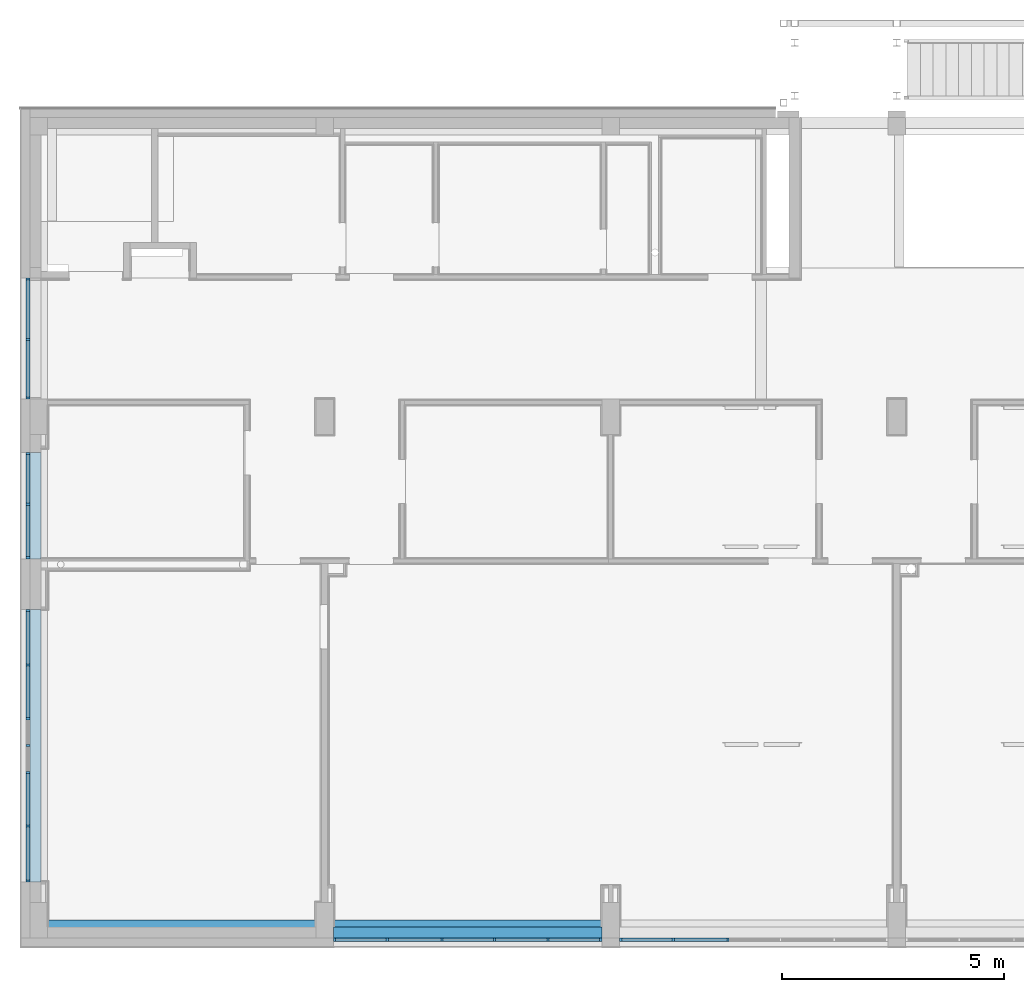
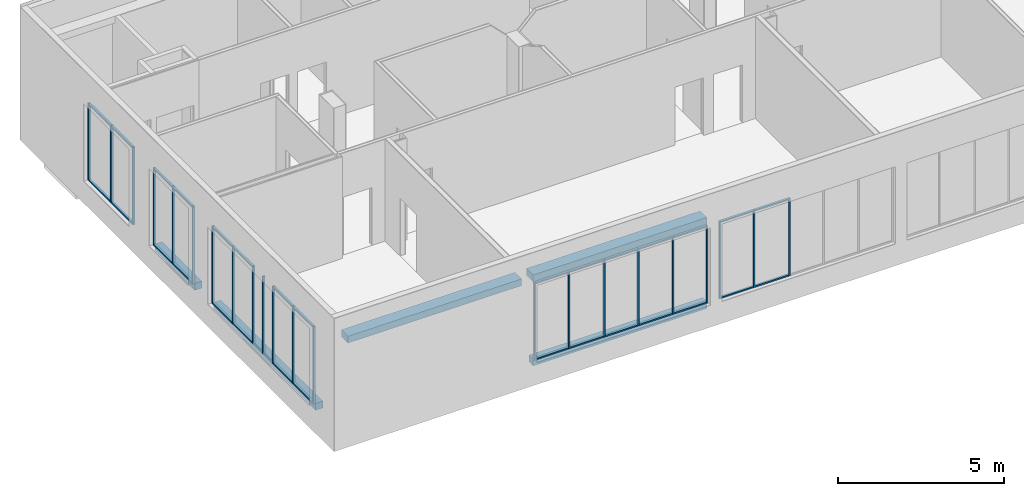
# One storey, part 6 of 29: 52 members, 4 beams, 5 elements without a shape of their own.
"""IFC2X3 building model written with IfcOpenShell, lengths in centimetres."""

from ifc_helpers import new_model, entity, si_unit, converted_unit, derived_unit, direction, frame, frame_2d, origin, origin_2d_with_axis, place, context, subcontext, project, spatial, rectangle, extrude, source, transform, mapped, material, type_object, type_shapes, element, aggregate, save


model = new_model("IFC2X3")

# Units and contexts
model_context = context("Model", 3, precision=0.001, world=origin(), true_north=direction((6.12303176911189e-17, 1.0)))
body_context = subcontext(model_context, "Body", "Model", "MODEL_VIEW")
ifc_project = project(units=[si_unit("LENGTHUNIT", "METRE", prefix="CENTI"), si_unit("AREAUNIT", "SQUARE_METRE"), si_unit("VOLUMEUNIT", "CUBIC_METRE"), converted_unit("PLANEANGLEUNIT", "DEGREE", entity("IfcRatioMeasure", 0.0174532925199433), si_unit("PLANEANGLEUNIT", "RADIAN"), dimensions=[0, 0, 0, 0, 0, 0, 0]), si_unit("MASSUNIT", "GRAM", prefix="KILO"), derived_unit("MASSDENSITYUNIT", [(si_unit("MASSUNIT", "GRAM", prefix="KILO"), 1), (si_unit("LENGTHUNIT", "METRE"), -3)]), derived_unit("MOMENTOFINERTIAUNIT", [(si_unit("LENGTHUNIT", "METRE"), 4)]), si_unit("TIMEUNIT", "SECOND"), si_unit("FREQUENCYUNIT", "HERTZ"), si_unit("THERMODYNAMICTEMPERATUREUNIT", "DEGREE_CELSIUS"), derived_unit("THERMALTRANSMITTANCEUNIT", [(si_unit("MASSUNIT", "GRAM", prefix="KILO"), 1), (si_unit("THERMODYNAMICTEMPERATUREUNIT", "KELVIN"), -1), (si_unit("TIMEUNIT", "SECOND"), -3)]), derived_unit("VOLUMETRICFLOWRATEUNIT", [(si_unit("LENGTHUNIT", "METRE"), 3), (si_unit("TIMEUNIT", "SECOND"), -1)]), si_unit("ELECTRICCURRENTUNIT", "AMPERE"), si_unit("ELECTRICVOLTAGEUNIT", "VOLT"), si_unit("POWERUNIT", "WATT"), si_unit("FORCEUNIT", "NEWTON", prefix="KILO"), si_unit("ILLUMINANCEUNIT", "LUX"), si_unit("LUMINOUSFLUXUNIT", "LUMEN"), si_unit("LUMINOUSINTENSITYUNIT", "CANDELA"), derived_unit("USERDEFINED", [(si_unit("MASSUNIT", "GRAM", prefix="KILO"), -1), (si_unit("LENGTHUNIT", "METRE"), -2), (si_unit("TIMEUNIT", "SECOND"), 3), (si_unit("LUMINOUSFLUXUNIT", "LUMEN"), 1)]), derived_unit("LINEARVELOCITYUNIT", [(si_unit("LENGTHUNIT", "METRE"), 1), (si_unit("TIMEUNIT", "SECOND"), -1)]), si_unit("PRESSUREUNIT", "PASCAL"), derived_unit("USERDEFINED", [(si_unit("LENGTHUNIT", "METRE"), -2), (si_unit("MASSUNIT", "GRAM", prefix="KILO"), 1), (si_unit("TIMEUNIT", "SECOND"), -2)]), derived_unit("LINEARFORCEUNIT", [(si_unit("MASSUNIT", "GRAM", prefix="KILO"), 1), (si_unit("LENGTHUNIT", "METRE"), 1), (si_unit("TIMEUNIT", "SECOND"), -2), (si_unit("LENGTHUNIT", "METRE"), -1)]), derived_unit("PLANARFORCEUNIT", [(si_unit("MASSUNIT", "GRAM", prefix="KILO"), 1), (si_unit("LENGTHUNIT", "METRE"), 1), (si_unit("TIMEUNIT", "SECOND"), -2), (si_unit("LENGTHUNIT", "METRE"), -2)])], contexts=[model_context])

# Site, building, storey
site_placement = place(None, origin())
site = spatial("IfcSite", under=ifc_project, at=site_placement, Name="Default", CompositionType="ELEMENT")
building_placement = place(site_placement, origin())
building = spatial("IfcBuilding", under=site, at=building_placement, CompositionType="ELEMENT")
storey_placement = place(building_placement, frame((0.0, 0.0, 545.0)))
storey = spatial("IfcBuildingStorey", under=building, at=storey_placement, Name="Poziom 1K +5,45", CompositionType="ELEMENT", Elevation=544.999999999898)

# Beams
ifc_material_1 = material(Name="_Beton C30/37")
beam_type_1 = type_object("IfcBeamType", Name="Beton-belka prostokątna:BELKA 40x30", PredefinedType="NOTDEFINED")
beam_1_placement = place(storey_placement, frame((-2894.26511743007, 275.127657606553, 380.0)))
element("IfcBeam", 1, at=beam_1_placement, inside=storey, type_object=beam_type_1, material=ifc_material_1, Name="Beton-belka prostokątna:BELKA 40x30", ObjectType="Beton-belka prostokątna:BELKA 40x30", context=body_context, shape_type="SweptSolid", body=[
    extrude(rectangle(XDim=25.0000000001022, YDim=40.0000000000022, at=frame_2d((0.0, 5.13367126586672e-13), x_axis=(1.0, 0.0))), frame((0.0, 0.0, -2.49999999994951), z_axis=(1.0, 0.0, 0.0), x_axis=(0.0, 0.0, -1.0)), (0.0, 0.0, 1.0), 605.000010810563),
])
beam_2_placement = place(storey_placement, frame((-2249.26510661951, 275.12765760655, 380.0)))
element("IfcBeam", 2, at=beam_2_placement, inside=storey, type_object=beam_type_1, material=ifc_material_1, Name="Beton-belka prostokątna:BELKA 40x30", ObjectType="Beton-belka prostokątna:BELKA 40x30", context=body_context, shape_type="SweptSolid", body=[
    extrude(rectangle(XDim=25.0000000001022, YDim=40.0000000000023, at=frame_2d((0.0, 4.60076421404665e-13), x_axis=(1.0, 0.0))), frame((0.0, 0.0, -2.49999999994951), z_axis=(1.0, 0.0, 0.0), x_axis=(0.0, 0.0, -1.0)), (0.0, 0.0, 1.0), 604.999999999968),
])
beam_type_2 = type_object("IfcBeamType", Name="Beton-belka prostokątna:wieniec 25x25", PredefinedType="BEAM", material=ifc_material_1)
beam_3_placement = place(storey_placement, frame((-2249.26510661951, 267.627657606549, 0.0)))
element("IfcBeam", 3, at=beam_3_placement, inside=storey, type_object=beam_type_2, material=ifc_material_1, Name="Beton-belka prostokątna:wieniec 25x25", ObjectType="Beton-belka prostokątna:wieniec 25x25", context=body_context, shape_type="SweptSolid", body=[
    extrude(rectangle(XDim=24.9999999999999, YDim=25.0000000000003, at=frame_2d((0.0, 8.08242361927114e-14), x_axis=(1.0, 0.0))), frame((0.0, 0.0, 67.4999999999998), z_axis=(1.0, 0.0, 0.0), x_axis=(0.0, 0.0, -1.0)), (0.0, 0.0, 1.0), 604.999999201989),
])
beam_type_3 = type_object("IfcBeamType", Name="Beton-belka prostokątna:wieniec 25x25", PredefinedType="BEAM", material=ifc_material_1)
shared_shape_1 = source(origin(), body_context, "Body", "SweptSolid", [
    extrude(rectangle(XDim=24.9999999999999, YDim=25.0000000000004, at=frame_2d((0.0, 0.0), x_axis=(0.0, 1.0))), frame((-2921.76510657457, 1350.12745208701, 612.499999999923), z_axis=(0.0, -1.0, 0.0), x_axis=(-1.0, 0.0, 0.0)), (0.0, 0.0, 1.0), 240.500001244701),
    extrude(rectangle(XDim=24.9999999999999, YDim=25.0000000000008, at=frame_2d((0.0, 0.0), x_axis=(0.0, 1.0))), frame((-2921.76510657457, 996.127657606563, 612.499999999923), z_axis=(0.0, -1.0, 0.0), x_axis=(-1.0, 0.0, 0.0)), (0.0, 0.0, 1.0), 615.000206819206),
])
type_shapes(beam_type_3, [shared_shape_1])
beam_4_placement = place(storey_placement, frame((0.0, 0.0, -545.0)))
element("IfcBeam", 4, at=beam_4_placement, inside=storey, type_object=beam_type_3, Name="Beton-belka prostokątna:wieniec 25x25", ObjectType="Beton-belka prostokątna:wieniec 25x25", context=body_context, shape_type="MappedRepresentation", body=[
    mapped(shared_shape_1, transform((0.0, 0.0, 0.0), scale=1.0)),
])

# Curtain wall, members
curtain_wall_type_1 = type_object("IfcCurtainWallType", PredefinedType="NOTDEFINED")
curtain_wall_1_placement = place(storey_placement, frame((0.0, 0.0, -545.0)))
curtain_wall_1 = element("IfcCurtainWall", 5, at=curtain_wall_1_placement, inside=storey, type_object=curtain_wall_type_1)
ifc_material_2 = material(Name="Aluminium")
member_type_1 = type_object("IfcMemberType", Name="Prostokątny szpros:50 x 80mm", PredefinedType="MULLION", material=ifc_material_2)
shared_shape_2 = source(origin(), body_context, "Body", "SweptSolid", [
    extrude(rectangle(XDim=8.0, YDim=5.0, at=origin_2d_with_axis()), frame((-2.5, 0.0, -118.5002067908), z_axis=(0.0, 0.0, 1.0), x_axis=(0.0, -1.0, 0.0)), (0.0, 0.0, 1.0), 118.5002067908),
])
type_shapes(member_type_1, [shared_shape_2])
member_1_placement = place(curtain_wall_1_placement, frame((-2938.26510657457, 386.127450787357, 910.0), z_axis=(0.0, -1.0, 0.0), x_axis=(0.0, 0.0, 1.0)))
member_1 = element("IfcMember", 6, at=member_1_placement, type_object=member_type_1, Name="Prostokątny szpros:50 x 80mm", ObjectType="Prostokątny szpros:50 x 80mm", context=body_context, shape_type="MappedRepresentation", body=[
    mapped(shared_shape_2, transform((0.0, 0.0, 0.0), scale=1.0)),
])
member_2_placement = place(curtain_wall_1_placement, frame((-2938.26510657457, 872.627450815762, 910.0), z_axis=(0.0, -1.0, 0.0), x_axis=(0.0, 0.0, 1.0)))
member_2 = element("IfcMember", 7, at=member_2_placement, type_object=member_type_1, Name="Prostokątny szpros:50 x 80mm", ObjectType="Prostokątny szpros:50 x 80mm", context=body_context, shape_type="MappedRepresentation", body=[
    mapped(shared_shape_2, transform((0.0, 0.0, 0.0), scale=1.0)),
])
member_type_2 = type_object("IfcMemberType", Name="Prostokątny szpros:50 x 80mm", PredefinedType="MULLION", material=ifc_material_2)
shared_shape_3 = source(origin(), body_context, "Body", "SweptSolid", [
    extrude(rectangle(XDim=8.0, YDim=5.0, at=origin_2d_with_axis()), frame((-2.5, 0.0, -118.5002067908), z_axis=(0.0, 0.0, 1.0), x_axis=(0.0, -1.0, 0.0)), (0.0, 0.0, 1.0), 118.5002067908),
])
type_shapes(member_type_2, [shared_shape_3])
member_3_placement = place(curtain_wall_1_placement, frame((-2938.26510657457, 991.127657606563, 625.0), z_axis=(0.0, 1.0, 0.0), x_axis=(0.0, 0.0, -1.0)))
member_3 = element("IfcMember", 8, at=member_3_placement, type_object=member_type_2, Name="Prostokątny szpros:50 x 80mm", ObjectType="Prostokątny szpros:50 x 80mm", context=body_context, shape_type="MappedRepresentation", body=[
    mapped(shared_shape_3, transform((0.0, 0.0, 0.0), scale=1.0)),
])
member_4_placement = place(curtain_wall_1_placement, frame((-2938.26510657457, 504.627450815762, 625.0), z_axis=(0.0, 1.0, 0.0), x_axis=(0.0, 0.0, -1.0)))
member_4 = element("IfcMember", 9, at=member_4_placement, type_object=member_type_2, Name="Prostokątny szpros:50 x 80mm", ObjectType="Prostokątny szpros:50 x 80mm", context=body_context, shape_type="MappedRepresentation", body=[
    mapped(shared_shape_3, transform((0.0, 0.0, 0.0), scale=1.0)),
])
member_type_3 = type_object("IfcMemberType", Name="Prostokątny szpros:50 x 80mm", PredefinedType="MULLION", material=ifc_material_2)
shared_shape_4 = source(origin(), body_context, "Body", "SweptSolid", [
    extrude(rectangle(XDim=8.0, YDim=5.0, at=origin_2d_with_axis()), frame((-2.5, 0.0, -285.0), z_axis=(0.0, 0.0, 1.0), x_axis=(0.0, -1.0, 0.0)), (0.0, 0.0, 1.0), 284.999999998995),
])
type_shapes(member_type_3, [shared_shape_4])
member_5_placement = place(curtain_wall_1_placement, frame((-2938.26510657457, 381.127450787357, 625.0), z_axis=(0.0, 0.0, -1.0), x_axis=(0.0, -1.0, 0.0)))
member_5 = element("IfcMember", 10, at=member_5_placement, type_object=member_type_3, Name="Prostokątny szpros:50 x 80mm", ObjectType="Prostokątny szpros:50 x 80mm", context=body_context, shape_type="MappedRepresentation", body=[
    mapped(shared_shape_4, transform((0.0, 0.0, 0.0), scale=1.0)),
])

# Curtain wall, member
curtain_wall_2_placement = place(storey_placement, frame((0.0, 0.0, -545.0)))
curtain_wall_2 = element("IfcCurtainWall", 11, at=curtain_wall_2_placement, inside=storey, type_object=curtain_wall_type_1)
member_6_placement = place(curtain_wall_2_placement, frame((-2938.26510657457, 1109.62745084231, 625.0), z_axis=(0.0, 0.0, -1.0), x_axis=(0.0, -1.0, 0.0)))
member_6 = element("IfcMember", 12, at=member_6_placement, type_object=member_type_3, Name="Prostokątny szpros:50 x 80mm", ObjectType="Prostokątny szpros:50 x 80mm", context=body_context, shape_type="MappedRepresentation", body=[
    mapped(shared_shape_4, transform((0.0, 0.0, 0.0), scale=1.0)),
])

curtain_wall_type_2 = type_object("IfcCurtainWallType", PredefinedType="NOTDEFINED")
curtain_wall_3_placement = place(storey_placement, frame((0.0, 0.0, -545.0)))
curtain_wall_3 = element("IfcCurtainWall", 13, at=curtain_wall_3_placement, inside=storey, type_object=curtain_wall_type_2)
member_7_placement = place(curtain_wall_3_placement, frame((-2938.26510820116, 1470.12745208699, 625.0), z_axis=(0.0, 0.0, -1.0), x_axis=(0.0, -1.0, 0.0)))
member_7 = element("IfcMember", 14, at=member_7_placement, type_object=member_type_3, Name="Prostokątny szpros:50 x 80mm", ObjectType="Prostokątny szpros:50 x 80mm", context=body_context, shape_type="MappedRepresentation", body=[
    mapped(shared_shape_4, transform((0.0, 0.0, 0.0), scale=1.0)),
])

# Member
member_type_4 = type_object("IfcMemberType", Name="Prostokątny szpros:50 x 80mm", PredefinedType="MULLION", material=ifc_material_2)
shared_shape_5 = source(origin(), body_context, "Body", "SweptSolid", [
    extrude(rectangle(XDim=8.0, YDim=5.0, at=origin_2d_with_axis()), frame((-2.5, 0.0, -285.0), z_axis=(0.0, 0.0, 1.0), x_axis=(0.0, -1.0, 0.0)), (0.0, 0.0, 1.0), 284.999999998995),
])
type_shapes(member_type_4, [shared_shape_5])
member_8_placement = place(curtain_wall_1_placement, frame((-2938.26510657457, 996.127657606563, 910.0), z_axis=(0.0, 0.0, 1.0), x_axis=(0.0, 1.0, 0.0)))
member_8 = element("IfcMember", 15, at=member_8_placement, type_object=member_type_4, Name="Prostokątny szpros:50 x 80mm", ObjectType="Prostokątny szpros:50 x 80mm", context=body_context, shape_type="MappedRepresentation", body=[
    mapped(shared_shape_5, transform((0.0, 0.0, 0.0), scale=1.0)),
])

member_9_placement = place(curtain_wall_2_placement, frame((-2938.26510657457, 1350.12745208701, 910.0), z_axis=(0.0, 0.0, 1.0), x_axis=(0.0, 1.0, 0.0)))
member_9 = element("IfcMember", 16, at=member_9_placement, type_object=member_type_4, Name="Prostokątny szpros:50 x 80mm", ObjectType="Prostokątny szpros:50 x 80mm", context=body_context, shape_type="MappedRepresentation", body=[
    mapped(shared_shape_5, transform((0.0, 0.0, 0.0), scale=1.0)),
])

member_10_placement = place(curtain_wall_3_placement, frame((-2938.26510820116, 1743.12745061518, 910.0), z_axis=(0.0, 0.0, 1.0), x_axis=(0.0, 1.0, 0.0)))
member_10 = element("IfcMember", 17, at=member_10_placement, type_object=member_type_4, Name="Prostokątny szpros:50 x 80mm", ObjectType="Prostokątny szpros:50 x 80mm", context=body_context, shape_type="MappedRepresentation", body=[
    mapped(shared_shape_5, transform((0.0, 0.0, 0.0), scale=1.0)),
])

member_type_5 = type_object("IfcMemberType", Name="Prostokątny szpros:50 x 80mm", PredefinedType="MULLION", material=ifc_material_2)
shared_shape_6 = source(origin(), body_context, "Body", "SweptSolid", [
    extrude(rectangle(XDim=8.0, YDim=5.0, at=origin_2d_with_axis()), frame((-2.5, 0.0, -116.0), z_axis=(0.0, 0.0, 1.0), x_axis=(0.0, -1.0, 0.0)), (0.0, 0.0, 1.0), 116.0),
])
type_shapes(member_type_5, [shared_shape_6])
member_11_placement = place(curtain_wall_1_placement, frame((-2938.26510657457, 867.627450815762, 625.0), z_axis=(0.0, 1.0, 0.0), x_axis=(0.0, 0.0, -1.0)))
member_11 = element("IfcMember", 18, at=member_11_placement, type_object=member_type_5, Name="Prostokątny szpros:50 x 80mm", ObjectType="Prostokątny szpros:50 x 80mm", context=body_context, shape_type="MappedRepresentation", body=[
    mapped(shared_shape_6, transform((0.0, 0.0, 0.0), scale=1.0)),
])

member_12_placement = place(curtain_wall_1_placement, frame((-2938.26510657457, 625.627450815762, 625.0), z_axis=(0.0, 1.0, 0.0), x_axis=(0.0, 0.0, -1.0)))
member_12 = element("IfcMember", 19, at=member_12_placement, type_object=member_type_5, Name="Prostokątny szpros:50 x 80mm", ObjectType="Prostokątny szpros:50 x 80mm", context=body_context, shape_type="MappedRepresentation", body=[
    mapped(shared_shape_6, transform((0.0, 0.0, 0.0), scale=1.0)),
])

member_13_placement = place(curtain_wall_2_placement, frame((-2938.26510657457, 1230.62728195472, 625.0), z_axis=(0.0, 1.0, 0.0), x_axis=(0.0, 0.0, -1.0)))
member_13 = element("IfcMember", 20, at=member_13_placement, type_object=member_type_5, Name="Prostokątny szpros:50 x 80mm", ObjectType="Prostokątny szpros:50 x 80mm", context=body_context, shape_type="MappedRepresentation", body=[
    mapped(shared_shape_6, transform((0.0, 0.0, 0.0), scale=1.0)),
])

member_type_6 = type_object("IfcMemberType", Name="Prostokątny szpros:50 x 80mm", PredefinedType="MULLION", material=ifc_material_2)
shared_shape_7 = source(origin(), body_context, "Body", "SweptSolid", [
    extrude(rectangle(XDim=8.0, YDim=5.0, at=origin_2d_with_axis()), frame((0.0, 0.0, -285.0), z_axis=(0.0, 0.0, 1.0), x_axis=(0.0, -1.0, 0.0)), (0.0, 0.0, 1.0), 284.999999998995),
])
type_shapes(member_type_6, [shared_shape_7])
member_14_placement = place(curtain_wall_1_placement, frame((-2938.26510657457, 870.127450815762, 625.0), z_axis=(0.0, 0.0, -1.0), x_axis=(0.0, -1.0, 0.0)))
member_14 = element("IfcMember", 21, at=member_14_placement, type_object=member_type_6, Name="Prostokątny szpros:50 x 80mm", ObjectType="Prostokątny szpros:50 x 80mm", context=body_context, shape_type="MappedRepresentation", body=[
    mapped(shared_shape_7, transform((0.0, 0.0, 0.0), scale=1.0)),
])

member_15_placement = place(curtain_wall_1_placement, frame((-2938.26510657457, 628.127450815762, 625.0), z_axis=(0.0, 0.0, -1.0), x_axis=(0.0, -1.0, 0.0)))
member_15 = element("IfcMember", 22, at=member_15_placement, type_object=member_type_6, Name="Prostokątny szpros:50 x 80mm", ObjectType="Prostokątny szpros:50 x 80mm", context=body_context, shape_type="MappedRepresentation", body=[
    mapped(shared_shape_7, transform((0.0, 0.0, 0.0), scale=1.0)),
])

member_16_placement = place(curtain_wall_1_placement, frame((-2938.26510657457, 507.127450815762, 625.0), z_axis=(0.0, 0.0, -1.0), x_axis=(0.0, -1.0, 0.0)))
member_16 = element("IfcMember", 23, at=member_16_placement, type_object=member_type_6, Name="Prostokątny szpros:50 x 80mm", ObjectType="Prostokątny szpros:50 x 80mm", context=body_context, shape_type="MappedRepresentation", body=[
    mapped(shared_shape_7, transform((0.0, 0.0, 0.0), scale=1.0)),
])

member_17_placement = place(curtain_wall_1_placement, frame((-2938.26510657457, 749.127622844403, 625.0), z_axis=(0.0, 0.0, -1.0), x_axis=(0.0, -1.0, 0.0)))
member_17 = element("IfcMember", 24, at=member_17_placement, type_object=member_type_6, Name="Prostokątny szpros:50 x 80mm", ObjectType="Prostokątny szpros:50 x 80mm", context=body_context, shape_type="MappedRepresentation", body=[
    mapped(shared_shape_7, transform((0.0, 0.0, 0.0), scale=1.0)),
])

member_18_placement = place(curtain_wall_1_placement, frame((-2938.26510657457, 688.627536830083, 625.0), z_axis=(0.0, 0.0, -1.0), x_axis=(0.0, -1.0, 0.0)))
member_18 = element("IfcMember", 25, at=member_18_placement, type_object=member_type_6, Name="Prostokątny szpros:50 x 80mm", ObjectType="Prostokątny szpros:50 x 80mm", context=body_context, shape_type="MappedRepresentation", body=[
    mapped(shared_shape_7, transform((0.0, 0.0, 0.0), scale=1.0)),
])

member_19_placement = place(curtain_wall_2_placement, frame((-2938.26510657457, 1233.12728195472, 625.0), z_axis=(0.0, 0.0, -1.0), x_axis=(0.0, -1.0, 0.0)))
member_19 = element("IfcMember", 26, at=member_19_placement, type_object=member_type_6, Name="Prostokątny szpros:50 x 80mm", ObjectType="Prostokątny szpros:50 x 80mm", context=body_context, shape_type="MappedRepresentation", body=[
    mapped(shared_shape_7, transform((0.0, 0.0, 0.0), scale=1.0)),
])

member_20_placement = place(curtain_wall_3_placement, frame((-2938.26510820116, 1604.62728255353, 625.0), z_axis=(0.0, 0.0, -1.0), x_axis=(0.0, -1.0, 0.0)))
member_20 = element("IfcMember", 27, at=member_20_placement, type_object=member_type_6, Name="Prostokątny szpros:50 x 80mm", ObjectType="Prostokątny szpros:50 x 80mm", context=body_context, shape_type="MappedRepresentation", body=[
    mapped(shared_shape_7, transform((0.0, 0.0, 0.0), scale=1.0)),
])

member_type_7 = type_object("IfcMemberType", Name="Prostokątny szpros:50 x 80mm", PredefinedType="MULLION", material=ifc_material_2)
shared_shape_8 = source(origin(), body_context, "Body", "SweptSolid", [
    extrude(rectangle(XDim=8.0, YDim=5.0, at=origin_2d_with_axis()), frame((-2.5, 0.0, -116.0), z_axis=(0.0, 0.0, 1.0), x_axis=(0.0, -1.0, 0.0)), (0.0, 0.0, 1.0), 116.000000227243),
])
type_shapes(member_type_7, [shared_shape_8])
member_21_placement = place(curtain_wall_1_placement, frame((-2938.26510657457, 509.627450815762, 910.0), z_axis=(0.0, -1.0, 0.0), x_axis=(0.0, 0.0, 1.0)))
member_21 = element("IfcMember", 28, at=member_21_placement, type_object=member_type_7, Name="Prostokątny szpros:50 x 80mm", ObjectType="Prostokątny szpros:50 x 80mm", context=body_context, shape_type="MappedRepresentation", body=[
    mapped(shared_shape_8, transform((0.0, 0.0, 0.0), scale=1.0)),
])

member_22_placement = place(curtain_wall_1_placement, frame((-2938.26510657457, 751.627622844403, 910.0), z_axis=(0.0, -1.0, 0.0), x_axis=(0.0, 0.0, 1.0)))
member_22 = element("IfcMember", 29, at=member_22_placement, type_object=member_type_7, Name="Prostokątny szpros:50 x 80mm", ObjectType="Prostokątny szpros:50 x 80mm", context=body_context, shape_type="MappedRepresentation", body=[
    mapped(shared_shape_8, transform((0.0, 0.0, 0.0), scale=1.0)),
])

aggregate(curtain_wall_1, [member_1, member_3, member_5, member_8, member_2, member_11, member_14, member_12, member_15, member_21, member_4, member_16, member_22, member_17, member_18])

member_23_placement = place(curtain_wall_2_placement, frame((-2938.26510657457, 1114.62745084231, 910.0), z_axis=(0.0, -1.0, 0.0), x_axis=(0.0, 0.0, 1.0)))
member_23 = element("IfcMember", 30, at=member_23_placement, type_object=member_type_7, Name="Prostokątny szpros:50 x 80mm", ObjectType="Prostokątny szpros:50 x 80mm", context=body_context, shape_type="MappedRepresentation", body=[
    mapped(shared_shape_8, transform((0.0, 0.0, 0.0), scale=1.0)),
])

member_type_8 = type_object("IfcMemberType", Name="Prostokątny szpros:50 x 80mm", PredefinedType="MULLION", material=ifc_material_2)
shared_shape_9 = source(origin(), body_context, "Body", "SweptSolid", [
    extrude(rectangle(XDim=8.0, YDim=5.0, at=origin_2d_with_axis()), frame((-2.5, 0.0, -109.500170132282), z_axis=(0.0, 0.0, 1.0), x_axis=(0.0, -1.0, 0.0)), (0.0, 0.0, 1.0), 109.500170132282),
])
type_shapes(member_type_8, [shared_shape_9])
member_24_placement = place(curtain_wall_2_placement, frame((-2938.26510657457, 1345.12745208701, 625.0), z_axis=(0.0, 1.0, 0.0), x_axis=(0.0, 0.0, -1.0)))
member_24 = element("IfcMember", 31, at=member_24_placement, type_object=member_type_8, Name="Prostokątny szpros:50 x 80mm", ObjectType="Prostokątny szpros:50 x 80mm", context=body_context, shape_type="MappedRepresentation", body=[
    mapped(shared_shape_9, transform((0.0, 0.0, 0.0), scale=1.0)),
])

member_type_9 = type_object("IfcMemberType", Name="Prostokątny szpros:50 x 80mm", PredefinedType="MULLION", material=ifc_material_2)
shared_shape_10 = source(origin(), body_context, "Body", "SweptSolid", [
    extrude(rectangle(XDim=8.0, YDim=5.0, at=origin_2d_with_axis()), frame((-2.5, 0.0, -109.500170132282), z_axis=(0.0, 0.0, 1.0), x_axis=(0.0, -1.0, 0.0)), (0.0, 0.0, 1.0), 109.500170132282),
])
type_shapes(member_type_9, [shared_shape_10])
member_25_placement = place(curtain_wall_2_placement, frame((-2938.26510657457, 1235.62728195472, 910.0), z_axis=(0.0, -1.0, 0.0), x_axis=(0.0, 0.0, 1.0)))
member_25 = element("IfcMember", 32, at=member_25_placement, type_object=member_type_9, Name="Prostokątny szpros:50 x 80mm", ObjectType="Prostokątny szpros:50 x 80mm", context=body_context, shape_type="MappedRepresentation", body=[
    mapped(shared_shape_10, transform((0.0, 0.0, 0.0), scale=1.0)),
])

aggregate(curtain_wall_2, [member_23, member_24, member_6, member_9, member_25, member_13, member_19])

# Curtain wall, members
curtain_wall_4_placement = place(storey_placement, frame((0.0, 0.0, -545.0)))
curtain_wall_4 = element("IfcCurtainWall", 33, at=curtain_wall_4_placement, inside=storey, type_object=curtain_wall_type_1)
member_type_10 = type_object("IfcMemberType", Name="Prostokątny szpros:50 x 80mm", PredefinedType="MULLION", material=ifc_material_2)
shared_shape_11 = source(origin(), body_context, "Body", "SweptSolid", [
    extrude(rectangle(XDim=8.0, YDim=5.0, at=origin_2d_with_axis()), frame((-2.5, 0.0, -113.500173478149), z_axis=(0.0, 0.0, 1.0), x_axis=(0.0, -1.0, 0.0)), (0.0, 0.0, 1.0), 113.500173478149),
])
type_shapes(member_type_10, [shared_shape_11])
member_26_placement = place(curtain_wall_4_placement, frame((-1649.26510661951, 251.127657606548, 910.0), z_axis=(1.0, 0.0, 0.0), x_axis=(0.0, 0.0, 1.0)))
member_26 = element("IfcMember", 34, at=member_26_placement, type_object=member_type_10, Name="Prostokątny szpros:50 x 80mm", ObjectType="Prostokątny szpros:50 x 80mm", context=body_context, shape_type="MappedRepresentation", body=[
    mapped(shared_shape_11, transform((0.0, 0.0, 0.0), scale=1.0)),
])
member_27_placement = place(curtain_wall_4_placement, frame((-2130.7622073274, 251.12765760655, 910.0), z_axis=(1.0, 0.0, 0.0), x_axis=(0.0, 0.0, 1.0)))
member_27 = element("IfcMember", 35, at=member_27_placement, type_object=member_type_10, Name="Prostokątny szpros:50 x 80mm", ObjectType="Prostokątny szpros:50 x 80mm", context=body_context, shape_type="MappedRepresentation", body=[
    mapped(shared_shape_11, transform((0.0, 0.0, 0.0), scale=1.0)),
])
member_28_placement = place(curtain_wall_4_placement, frame((-1888.76222116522, 251.127657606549, 910.0), z_axis=(1.0, 0.0, 0.0), x_axis=(0.0, 0.0, 1.0)))
member_28 = element("IfcMember", 36, at=member_28_placement, type_object=member_type_10, Name="Prostokątny szpros:50 x 80mm", ObjectType="Prostokątny szpros:50 x 80mm", context=body_context, shape_type="MappedRepresentation", body=[
    mapped(shared_shape_11, transform((0.0, 0.0, 0.0), scale=1.0)),
])

# Curtain wall, member
curtain_wall_5_placement = place(storey_placement, frame((0.0, 0.0, -545.0)))
curtain_wall_5 = element("IfcCurtainWall", 37, at=curtain_wall_5_placement, inside=storey, type_object=curtain_wall_type_1)
member_29_placement = place(curtain_wall_5_placement, frame((-1485.76218725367, 251.127657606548, 910.0), z_axis=(1.0, 0.0, 0.0), x_axis=(0.0, 0.0, 1.0)))
member_29 = element("IfcMember", 38, at=member_29_placement, type_object=member_type_10, Name="Prostokątny szpros:50 x 80mm", ObjectType="Prostokątny szpros:50 x 80mm", context=body_context, shape_type="MappedRepresentation", body=[
    mapped(shared_shape_11, transform((0.0, 0.0, 0.0), scale=1.0)),
])

# Member
member_type_11 = type_object("IfcMemberType", Name="Prostokątny szpros:50 x 80mm", PredefinedType="MULLION", material=ifc_material_2)
shared_shape_12 = source(origin(), body_context, "Body", "SweptSolid", [
    extrude(rectangle(XDim=8.0, YDim=5.0, at=origin_2d_with_axis()), frame((-2.5, 0.0, -113.500173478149), z_axis=(0.0, 0.0, 1.0), x_axis=(0.0, -1.0, 0.0)), (0.0, 0.0, 1.0), 113.500173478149),
])
type_shapes(member_type_11, [shared_shape_12])
member_30_placement = place(curtain_wall_4_placement, frame((-2244.26510661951, 251.12765760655, 625.0), z_axis=(-1.0, 0.0, 0.0), x_axis=(0.0, 0.0, -1.0)))
member_30 = element("IfcMember", 39, at=member_30_placement, type_object=member_type_11, Name="Prostokątny szpros:50 x 80mm", ObjectType="Prostokątny szpros:50 x 80mm", context=body_context, shape_type="MappedRepresentation", body=[
    mapped(shared_shape_12, transform((0.0, 0.0, 0.0), scale=1.0)),
])

member_31_placement = place(curtain_wall_4_placement, frame((-2002.262228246, 251.127657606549, 625.0), z_axis=(-1.0, 0.0, 0.0), x_axis=(0.0, 0.0, -1.0)))
member_31 = element("IfcMember", 40, at=member_31_placement, type_object=member_type_11, Name="Prostokątny szpros:50 x 80mm", ObjectType="Prostokątny szpros:50 x 80mm", context=body_context, shape_type="MappedRepresentation", body=[
    mapped(shared_shape_12, transform((0.0, 0.0, 0.0), scale=1.0)),
])

member_32_placement = place(curtain_wall_4_placement, frame((-1762.76222117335, 251.127657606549, 625.0), z_axis=(-1.0, 0.0, 0.0), x_axis=(0.0, 0.0, -1.0)))
member_32 = element("IfcMember", 41, at=member_32_placement, type_object=member_type_11, Name="Prostokątny szpros:50 x 80mm", ObjectType="Prostokątny szpros:50 x 80mm", context=body_context, shape_type="MappedRepresentation", body=[
    mapped(shared_shape_12, transform((0.0, 0.0, 0.0), scale=1.0)),
])

member_33_placement = place(curtain_wall_5_placement, frame((-1599.26509263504, 251.127657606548, 625.0), z_axis=(-1.0, 0.0, 0.0), x_axis=(0.0, 0.0, -1.0)))
member_33 = element("IfcMember", 42, at=member_33_placement, type_object=member_type_11, Name="Prostokątny szpros:50 x 80mm", ObjectType="Prostokątny szpros:50 x 80mm", context=body_context, shape_type="MappedRepresentation", body=[
    mapped(shared_shape_12, transform((0.0, 0.0, 0.0), scale=1.0)),
])

member_type_12 = type_object("IfcMemberType", Name="Prostokątny szpros:50 x 80mm", PredefinedType="MULLION", material=ifc_material_2)
shared_shape_13 = source(origin(), body_context, "Body", "SweptSolid", [
    extrude(rectangle(XDim=8.0, YDim=5.0, at=origin_2d_with_axis()), frame((-2.5, 0.0, -116.002333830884), z_axis=(0.0, 0.0, 1.0), x_axis=(0.0, -1.0, 0.0)), (0.0, 0.0, 1.0), 116.002333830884),
])
type_shapes(member_type_12, [shared_shape_13])
member_34_placement = place(curtain_wall_4_placement, frame((-1883.76222116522, 251.127657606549, 625.0), z_axis=(-1.0, 0.0, 0.0), x_axis=(0.0, 0.0, -1.0)))
member_34 = element("IfcMember", 43, at=member_34_placement, type_object=member_type_12, Name="Prostokątny szpros:50 x 80mm", ObjectType="Prostokątny szpros:50 x 80mm", context=body_context, shape_type="MappedRepresentation", body=[
    mapped(shared_shape_13, transform((0.0, 0.0, 0.0), scale=1.0)),
])

member_type_13 = type_object("IfcMemberType", Name="Prostokątny szpros:50 x 80mm", PredefinedType="MULLION", material=ifc_material_2)
shared_shape_14 = source(origin(), body_context, "Body", "SweptSolid", [
    extrude(rectangle(XDim=8.0, YDim=5.0, at=origin_2d_with_axis()), frame((-2.5, 0.0, -116.002333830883), z_axis=(0.0, 0.0, 1.0), x_axis=(0.0, -1.0, 0.0)), (0.0, 0.0, 1.0), 116.002333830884),
])
type_shapes(member_type_13, [shared_shape_14])
member_35_placement = place(curtain_wall_4_placement, frame((-1767.76222117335, 251.127657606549, 910.0), z_axis=(1.0, 0.0, 0.0), x_axis=(0.0, 0.0, 1.0)))
member_35 = element("IfcMember", 44, at=member_35_placement, type_object=member_type_13, Name="Prostokątny szpros:50 x 80mm", ObjectType="Prostokątny szpros:50 x 80mm", context=body_context, shape_type="MappedRepresentation", body=[
    mapped(shared_shape_14, transform((0.0, 0.0, 0.0), scale=1.0)),
])

member_type_14 = type_object("IfcMemberType", Name="Prostokątny szpros:50 x 80mm", PredefinedType="MULLION", material=ifc_material_2)
shared_shape_15 = source(origin(), body_context, "Body", "SweptSolid", [
    extrude(rectangle(XDim=8.0, YDim=5.0, at=origin_2d_with_axis()), frame((-2.5, 0.0, -118.4999790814), z_axis=(0.0, 0.0, 1.0), x_axis=(0.0, -1.0, 0.0)), (0.0, 0.0, 1.0), 118.499979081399),
])
type_shapes(member_type_14, [shared_shape_15])
member_36_placement = place(curtain_wall_4_placement, frame((-2007.262228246, 251.127657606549, 910.0), z_axis=(1.0, 0.0, 0.0), x_axis=(0.0, 0.0, 1.0)))
member_36 = element("IfcMember", 45, at=member_36_placement, type_object=member_type_14, Name="Prostokątny szpros:50 x 80mm", ObjectType="Prostokątny szpros:50 x 80mm", context=body_context, shape_type="MappedRepresentation", body=[
    mapped(shared_shape_15, transform((0.0, 0.0, 0.0), scale=1.0)),
])

member_37_placement = place(curtain_wall_5_placement, frame((-1362.26220817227, 251.127657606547, 910.0), z_axis=(1.0, 0.0, 0.0), x_axis=(0.0, 0.0, 1.0)))
member_37 = element("IfcMember", 46, at=member_37_placement, type_object=member_type_14, Name="Prostokątny szpros:50 x 80mm", ObjectType="Prostokątny szpros:50 x 80mm", context=body_context, shape_type="MappedRepresentation", body=[
    mapped(shared_shape_15, transform((0.0, 0.0, 0.0), scale=1.0)),
])

member_type_15 = type_object("IfcMemberType", Name="Prostokątny szpros:50 x 80mm", PredefinedType="MULLION", material=ifc_material_2)
shared_shape_16 = source(origin(), body_context, "Body", "SweptSolid", [
    extrude(rectangle(XDim=8.0, YDim=5.0, at=origin_2d_with_axis()), frame((-2.5, 0.0, -118.4999790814), z_axis=(0.0, 0.0, 1.0), x_axis=(0.0, -1.0, 0.0)), (0.0, 0.0, 1.0), 118.499979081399),
])
type_shapes(member_type_15, [shared_shape_16])
member_38_placement = place(curtain_wall_4_placement, frame((-2125.7622073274, 251.12765760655, 625.0), z_axis=(-1.0, 0.0, 0.0), x_axis=(0.0, 0.0, -1.0)))
member_38 = element("IfcMember", 47, at=member_38_placement, type_object=member_type_15, Name="Prostokątny szpros:50 x 80mm", ObjectType="Prostokątny szpros:50 x 80mm", context=body_context, shape_type="MappedRepresentation", body=[
    mapped(shared_shape_16, transform((0.0, 0.0, 0.0), scale=1.0)),
])

member_39_placement = place(curtain_wall_5_placement, frame((-1480.76218725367, 251.127657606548, 625.0), z_axis=(-1.0, 0.0, 0.0), x_axis=(0.0, 0.0, -1.0)))
member_39 = element("IfcMember", 48, at=member_39_placement, type_object=member_type_15, Name="Prostokątny szpros:50 x 80mm", ObjectType="Prostokątny szpros:50 x 80mm", context=body_context, shape_type="MappedRepresentation", body=[
    mapped(shared_shape_16, transform((0.0, 0.0, 0.0), scale=1.0)),
])

member_type_16 = type_object("IfcMemberType", Name="Prostokątny szpros:50 x 80mm", PredefinedType="MULLION", material=ifc_material_2)
shared_shape_17 = source(origin(), body_context, "Body", "SweptSolid", [
    extrude(rectangle(XDim=8.0, YDim=5.0, at=origin_2d_with_axis()), frame((-2.5, 0.0, -285.0), z_axis=(0.0, 0.0, 1.0), x_axis=(0.0, -1.0, 0.0)), (0.0, 0.0, 1.0), 284.99999999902),
])
type_shapes(member_type_16, [shared_shape_17])
member_40_placement = place(curtain_wall_4_placement, frame((-1644.26510661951, 251.127657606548, 625.0), z_axis=(0.0, 0.0, -1.0), x_axis=(1.0, 0.0, 0.0)))
member_40 = element("IfcMember", 49, at=member_40_placement, type_object=member_type_16, Name="Prostokątny szpros:50 x 80mm", ObjectType="Prostokątny szpros:50 x 80mm", context=body_context, shape_type="MappedRepresentation", body=[
    mapped(shared_shape_17, transform((0.0, 0.0, 0.0), scale=1.0)),
])

member_type_17 = type_object("IfcMemberType", Name="Prostokątny szpros:50 x 80mm", PredefinedType="MULLION", material=ifc_material_2)
shared_shape_18 = source(origin(), body_context, "Body", "SweptSolid", [
    extrude(rectangle(XDim=8.0, YDim=5.0, at=origin_2d_with_axis()), frame((-2.5, 0.0, -285.0), z_axis=(0.0, 0.0, 1.0), x_axis=(0.0, -1.0, 0.0)), (0.0, 0.0, 1.0), 284.99999999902),
])
type_shapes(member_type_17, [shared_shape_18])
member_41_placement = place(curtain_wall_4_placement, frame((-2249.26510661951, 251.12765760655, 910.0), z_axis=(0.0, 0.0, 1.0), x_axis=(-1.0, 0.0, 0.0)))
member_41 = element("IfcMember", 50, at=member_41_placement, type_object=member_type_17, Name="Prostokątny szpros:50 x 80mm", ObjectType="Prostokątny szpros:50 x 80mm", context=body_context, shape_type="MappedRepresentation", body=[
    mapped(shared_shape_18, transform((0.0, 0.0, 0.0), scale=1.0)),
])

member_42_placement = place(curtain_wall_5_placement, frame((-1604.26509263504, 251.127657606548, 910.0), z_axis=(0.0, 0.0, 1.0), x_axis=(-1.0, 0.0, 0.0)))
member_42 = element("IfcMember", 51, at=member_42_placement, type_object=member_type_17, Name="Prostokątny szpros:50 x 80mm", ObjectType="Prostokątny szpros:50 x 80mm", context=body_context, shape_type="MappedRepresentation", body=[
    mapped(shared_shape_18, transform((0.0, 0.0, 0.0), scale=1.0)),
])

member_type_18 = type_object("IfcMemberType", Name="Prostokątny szpros:50 x 80mm", PredefinedType="MULLION", material=ifc_material_2)
shared_shape_19 = source(origin(), body_context, "Body", "SweptSolid", [
    extrude(rectangle(XDim=8.0, YDim=5.0, at=origin_2d_with_axis()), frame((0.0, 0.0, -285.0), z_axis=(0.0, 0.0, 1.0), x_axis=(0.0, -1.0, 0.0)), (0.0, 0.0, 1.0), 284.99999999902),
])
type_shapes(member_type_18, [shared_shape_19])
member_43_placement = place(curtain_wall_4_placement, frame((-2128.2622073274, 251.12765760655, 625.0), z_axis=(0.0, 0.0, -1.0), x_axis=(1.0, 0.0, 0.0)))
member_43 = element("IfcMember", 52, at=member_43_placement, type_object=member_type_18, Name="Prostokątny szpros:50 x 80mm", ObjectType="Prostokątny szpros:50 x 80mm", context=body_context, shape_type="MappedRepresentation", body=[
    mapped(shared_shape_19, transform((0.0, 0.0, 0.0), scale=1.0)),
])

member_44_placement = place(curtain_wall_4_placement, frame((-2004.762228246, 251.127657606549, 625.0), z_axis=(0.0, 0.0, -1.0), x_axis=(1.0, 0.0, 0.0)))
member_44 = element("IfcMember", 53, at=member_44_placement, type_object=member_type_18, Name="Prostokątny szpros:50 x 80mm", ObjectType="Prostokątny szpros:50 x 80mm", context=body_context, shape_type="MappedRepresentation", body=[
    mapped(shared_shape_19, transform((0.0, 0.0, 0.0), scale=1.0)),
])

member_45_placement = place(curtain_wall_4_placement, frame((-1886.26222116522, 251.127657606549, 625.0), z_axis=(0.0, 0.0, -1.0), x_axis=(1.0, 0.0, 0.0)))
member_45 = element("IfcMember", 54, at=member_45_placement, type_object=member_type_18, Name="Prostokątny szpros:50 x 80mm", ObjectType="Prostokątny szpros:50 x 80mm", context=body_context, shape_type="MappedRepresentation", body=[
    mapped(shared_shape_19, transform((0.0, 0.0, 0.0), scale=1.0)),
])

member_46_placement = place(curtain_wall_4_placement, frame((-1765.26222117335, 251.127657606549, 625.0), z_axis=(0.0, 0.0, -1.0), x_axis=(1.0, 0.0, 0.0)))
member_46 = element("IfcMember", 55, at=member_46_placement, type_object=member_type_18, Name="Prostokątny szpros:50 x 80mm", ObjectType="Prostokątny szpros:50 x 80mm", context=body_context, shape_type="MappedRepresentation", body=[
    mapped(shared_shape_19, transform((0.0, 0.0, 0.0), scale=1.0)),
])

aggregate(curtain_wall_4, [member_26, member_30, member_40, member_41, member_27, member_38, member_43, member_36, member_31, member_44, member_28, member_34, member_45, member_35, member_32, member_46])

member_47_placement = place(curtain_wall_5_placement, frame((-1483.26218725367, 251.127657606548, 625.0), z_axis=(0.0, 0.0, -1.0), x_axis=(1.0, 0.0, 0.0)))
member_47 = element("IfcMember", 56, at=member_47_placement, type_object=member_type_18, Name="Prostokątny szpros:50 x 80mm", ObjectType="Prostokątny szpros:50 x 80mm", context=body_context, shape_type="MappedRepresentation", body=[
    mapped(shared_shape_19, transform((0.0, 0.0, 0.0), scale=1.0)),
])

member_48_placement = place(curtain_wall_5_placement, frame((-1359.76220817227, 251.127657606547, 625.0), z_axis=(0.0, 0.0, -1.0), x_axis=(1.0, 0.0, 0.0)))
member_48 = element("IfcMember", 57, at=member_48_placement, type_object=member_type_18, Name="Prostokątny szpros:50 x 80mm", ObjectType="Prostokątny szpros:50 x 80mm", context=body_context, shape_type="MappedRepresentation", body=[
    mapped(shared_shape_19, transform((0.0, 0.0, 0.0), scale=1.0)),
])

aggregate(curtain_wall_5, [member_33, member_42, member_29, member_39, member_47, member_37, member_48])

member_type_19 = type_object("IfcMemberType", Name="Prostokątny szpros:50 x 80mm", PredefinedType="MULLION", material=ifc_material_2)
shared_shape_20 = source(origin(), body_context, "Body", "SweptSolid", [
    extrude(rectangle(XDim=8.0, YDim=5.0, at=origin_2d_with_axis()), frame((-2.5, 0.0, -126.999830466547), z_axis=(0.0, 0.0, 1.0), x_axis=(0.0, -1.0, 0.0)), (0.0, 0.0, 1.0), 126.999830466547),
])
type_shapes(member_type_19, [shared_shape_20])
member_49_placement = place(curtain_wall_3_placement, frame((-2938.26510820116, 1475.12745208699, 910.0), z_axis=(0.0, -1.0, 0.0), x_axis=(0.0, 0.0, 1.0)))
member_49 = element("IfcMember", 58, at=member_49_placement, type_object=member_type_19, Name="Prostokątny szpros:50 x 80mm", ObjectType="Prostokątny szpros:50 x 80mm", context=body_context, shape_type="MappedRepresentation", body=[
    mapped(shared_shape_20, transform((0.0, 0.0, 0.0), scale=1.0)),
])

member_type_20 = type_object("IfcMemberType", Name="Prostokątny szpros:50 x 80mm", PredefinedType="MULLION", material=ifc_material_2)
shared_shape_21 = source(origin(), body_context, "Body", "SweptSolid", [
    extrude(rectangle(XDim=8.0, YDim=5.0, at=origin_2d_with_axis()), frame((-2.5, 0.0, -131.000168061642), z_axis=(0.0, 0.0, 1.0), x_axis=(0.0, -1.0, 0.0)), (0.0, 0.0, 1.0), 131.000168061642),
])
type_shapes(member_type_20, [shared_shape_21])
member_50_placement = place(curtain_wall_3_placement, frame((-2938.26510820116, 1738.12745061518, 625.0), z_axis=(0.0, 1.0, 0.0), x_axis=(0.0, 0.0, -1.0)))
member_50 = element("IfcMember", 59, at=member_50_placement, type_object=member_type_20, Name="Prostokątny szpros:50 x 80mm", ObjectType="Prostokątny szpros:50 x 80mm", context=body_context, shape_type="MappedRepresentation", body=[
    mapped(shared_shape_21, transform((0.0, 0.0, 0.0), scale=1.0)),
])

member_type_21 = type_object("IfcMemberType", Name="Prostokątny szpros:50 x 80mm", PredefinedType="MULLION", material=ifc_material_2)
shared_shape_22 = source(origin(), body_context, "Body", "SweptSolid", [
    extrude(rectangle(XDim=8.0, YDim=5.0, at=origin_2d_with_axis()), frame((-2.5, 0.0, -126.999830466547), z_axis=(0.0, 0.0, 1.0), x_axis=(0.0, -1.0, 0.0)), (0.0, 0.0, 1.0), 126.999830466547),
])
type_shapes(member_type_21, [shared_shape_22])
member_51_placement = place(curtain_wall_3_placement, frame((-2938.26510820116, 1602.12728255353, 625.0), z_axis=(0.0, 1.0, 0.0), x_axis=(0.0, 0.0, -1.0)))
member_51 = element("IfcMember", 60, at=member_51_placement, type_object=member_type_21, Name="Prostokątny szpros:50 x 80mm", ObjectType="Prostokątny szpros:50 x 80mm", context=body_context, shape_type="MappedRepresentation", body=[
    mapped(shared_shape_22, transform((0.0, 0.0, 0.0), scale=1.0)),
])

member_type_22 = type_object("IfcMemberType", Name="Prostokątny szpros:50 x 80mm", PredefinedType="MULLION", material=ifc_material_2)
shared_shape_23 = source(origin(), body_context, "Body", "SweptSolid", [
    extrude(rectangle(XDim=8.0, YDim=5.0, at=origin_2d_with_axis()), frame((-2.5, 0.0, -131.000168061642), z_axis=(0.0, 0.0, 1.0), x_axis=(0.0, -1.0, 0.0)), (0.0, 0.0, 1.0), 131.000168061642),
])
type_shapes(member_type_22, [shared_shape_23])
member_52_placement = place(curtain_wall_3_placement, frame((-2938.26510820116, 1607.12728255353, 910.0), z_axis=(0.0, -1.0, 0.0), x_axis=(0.0, 0.0, 1.0)))
member_52 = element("IfcMember", 61, at=member_52_placement, type_object=member_type_22, Name="Prostokątny szpros:50 x 80mm", ObjectType="Prostokątny szpros:50 x 80mm", context=body_context, shape_type="MappedRepresentation", body=[
    mapped(shared_shape_23, transform((0.0, 0.0, 0.0), scale=1.0)),
])

aggregate(curtain_wall_3, [member_49, member_50, member_7, member_10, member_20, member_51, member_52])

save(model, "model.ifc")
